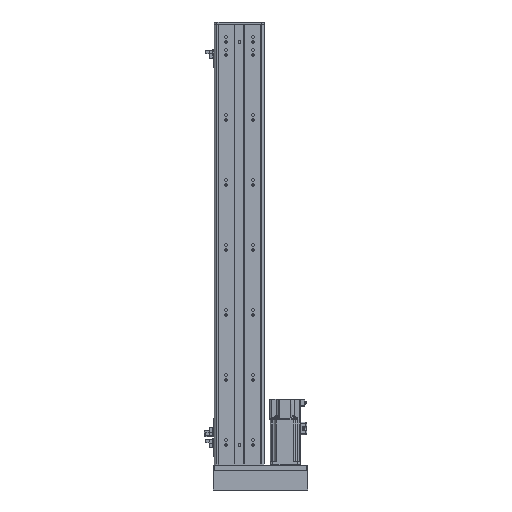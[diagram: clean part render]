
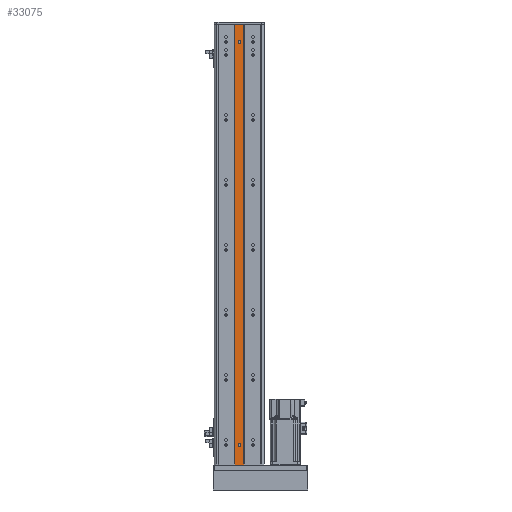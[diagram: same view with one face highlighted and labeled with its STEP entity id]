
A CAD part, front view. The second image highlights one B-rep face of the part: STEP entity #33075.
In plain terms, the highlighted planar face has unit normal (0, -1, 0).
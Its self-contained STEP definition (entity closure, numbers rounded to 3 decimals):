
#477 = CARTESIAN_POINT ( 'NONE',  ( 0., 1.309, 1011. ) ) ;
#3416 = VERTEX_POINT ( 'NONE', #34494 ) ;
#5298 = CARTESIAN_POINT ( 'NONE',  ( -2.5, 1.309, 975.5 ) ) ;
#5922 = FACE_BOUND ( 'NONE', #14756, .T. ) ;
#6361 = EDGE_CURVE ( 'NONE', #31376, #48317, #34912, .T. ) ;
#6563 = CARTESIAN_POINT ( 'NONE',  ( -2.5, 1.309, 1011. ) ) ;
#6850 = DIRECTION ( 'NONE',  ( 0., 0., 1. ) ) ;
#7253 = LINE ( 'NONE', #25293, #40298 ) ;
#8911 = DIRECTION ( 'NONE',  ( -1., 0., 0. ) ) ;
#9043 = ORIENTED_EDGE ( 'NONE', *, *, #45865, .T. ) ;
#9196 = CARTESIAN_POINT ( 'NONE',  ( -9., 1.309, 130. ) ) ;
#10165 = CARTESIAN_POINT ( 'NONE',  ( -9., 1.309, 1011. ) ) ;
#10350 = DIRECTION ( 'NONE',  ( 0., 0., 1. ) ) ;
#10606 = CARTESIAN_POINT ( 'NONE',  ( -2.5, 1.309, 976.5 ) ) ;
#10666 = CARTESIAN_POINT ( 'NONE',  ( 2.5, 1.309, 975.5 ) ) ;
#10788 = VECTOR ( 'NONE', #17176, 1000. ) ;
#10881 = EDGE_LOOP ( 'NONE', ( #13970, #57361, #19656, #17809 ) ) ;
#13904 = EDGE_CURVE ( 'NONE', #16786, #53937, #38965, .T. ) ;
#13970 = ORIENTED_EDGE ( 'NONE', *, *, #50607, .F. ) ;
#14611 = CARTESIAN_POINT ( 'NONE',  ( 2.5, 1.309, 170. ) ) ;
#14756 = EDGE_LOOP ( 'NONE', ( #40851, #70353, #9043, #25283 ) ) ;
#15312 = EDGE_CURVE ( 'NONE', #51633, #3416, #35436, .T. ) ;
#15930 = CARTESIAN_POINT ( 'NONE',  ( 0., 1.309, 170. ) ) ;
#16394 = EDGE_CURVE ( 'NONE', #53937, #16786, #49699, .T. ) ;
#16786 = VERTEX_POINT ( 'NONE', #14611 ) ;
#16978 = CARTESIAN_POINT ( 'NONE',  ( 2.5, 1.309, 1011. ) ) ;
#17176 = DIRECTION ( 'NONE',  ( 0., 0., -1. ) ) ;
#17418 = CARTESIAN_POINT ( 'NONE',  ( 9., 1.309, 1011. ) ) ;
#17809 = ORIENTED_EDGE ( 'NONE', *, *, #18707, .T. ) ;
#18707 = EDGE_CURVE ( 'NONE', #51633, #33378, #35688, .T. ) ;
#19656 = ORIENTED_EDGE ( 'NONE', *, *, #15312, .F. ) ;
#21255 = EDGE_CURVE ( 'NONE', #48317, #25497, #54265, .T. ) ;
#21572 = VECTOR ( 'NONE', #33341, 1000. ) ;
#23957 = VERTEX_POINT ( 'NONE', #33760 ) ;
#25283 = ORIENTED_EDGE ( 'NONE', *, *, #6361, .T. ) ;
#25293 = CARTESIAN_POINT ( 'NONE',  ( 0., 1.309, 130. ) ) ;
#25497 = VERTEX_POINT ( 'NONE', #10606 ) ;
#26942 = VECTOR ( 'NONE', #37616, 1000. ) ;
#27104 = DIRECTION ( 'NONE',  ( 0., 0., 1. ) ) ;
#28637 = LINE ( 'NONE', #17418, #10788 ) ;
#31376 = VERTEX_POINT ( 'NONE', #10666 ) ;
#32035 = EDGE_CURVE ( 'NONE', #3416, #43072, #28637, .T. ) ;
#33075 = ADVANCED_FACE ( 'NONE', ( #5922, #68675, #48325 ), #66163, .F. ) ;
#33341 = DIRECTION ( 'NONE',  ( 0., 0., -1. ) ) ;
#33378 = VERTEX_POINT ( 'NONE', #9196 ) ;
#33760 = CARTESIAN_POINT ( 'NONE',  ( 2.5, 1.309, 976.5 ) ) ;
#34068 = ORIENTED_EDGE ( 'NONE', *, *, #16394, .T. ) ;
#34081 = DIRECTION ( 'NONE',  ( 0., 0., 1. ) ) ;
#34494 = CARTESIAN_POINT ( 'NONE',  ( 9., 1.309, 1011. ) ) ;
#34912 = CIRCLE ( 'NONE', #59548, 2.5 ) ;
#35436 = LINE ( 'NONE', #10165, #26942 ) ;
#35480 = CIRCLE ( 'NONE', #49885, 2.5 ) ;
#35688 = LINE ( 'NONE', #68307, #61148 ) ;
#37616 = DIRECTION ( 'NONE',  ( 1., 0., 0. ) ) ;
#37667 = LINE ( 'NONE', #16978, #21572 ) ;
#38412 = DIRECTION ( 'NONE',  ( 0., 1., 0. ) ) ;
#38965 = CIRCLE ( 'NONE', #61120, 2.5 ) ;
#40217 = AXIS2_PLACEMENT_3D ( 'NONE', #477, #38412, #44573 ) ;
#40298 = VECTOR ( 'NONE', #8911, 1000. ) ;
#40819 = DIRECTION ( 'NONE',  ( 0., 0., 1. ) ) ;
#40851 = ORIENTED_EDGE ( 'NONE', *, *, #21255, .T. ) ;
#41226 = CARTESIAN_POINT ( 'NONE',  ( -9., 1.309, 1011. ) ) ;
#42827 = CARTESIAN_POINT ( 'NONE',  ( 0., 1.309, 976.5 ) ) ;
#43072 = VERTEX_POINT ( 'NONE', #62990 ) ;
#44573 = DIRECTION ( 'NONE',  ( 0., 0., 1. ) ) ;
#45187 = ORIENTED_EDGE ( 'NONE', *, *, #13904, .T. ) ;
#45865 = EDGE_CURVE ( 'NONE', #23957, #31376, #37667, .T. ) ;
#46246 = CARTESIAN_POINT ( 'NONE',  ( 0., 1.309, 170. ) ) ;
#48317 = VERTEX_POINT ( 'NONE', #5298 ) ;
#48325 = FACE_OUTER_BOUND ( 'NONE', #10881, .T. ) ;
#48611 = DIRECTION ( 'NONE',  ( 0., 1., 0. ) ) ;
#49699 = CIRCLE ( 'NONE', #62100, 2.5 ) ;
#49885 = AXIS2_PLACEMENT_3D ( 'NONE', #42827, #63933, #10350 ) ;
#50446 = DIRECTION ( 'NONE',  ( 0., 1., 0. ) ) ;
#50607 = EDGE_CURVE ( 'NONE', #43072, #33378, #7253, .T. ) ;
#51633 = VERTEX_POINT ( 'NONE', #41226 ) ;
#53937 = VERTEX_POINT ( 'NONE', #68833 ) ;
#54198 = VECTOR ( 'NONE', #34081, 1000. ) ;
#54265 = LINE ( 'NONE', #6563, #54198 ) ;
#55915 = CARTESIAN_POINT ( 'NONE',  ( 0., 1.309, 975.5 ) ) ;
#57361 = ORIENTED_EDGE ( 'NONE', *, *, #32035, .F. ) ;
#57403 = DIRECTION ( 'NONE',  ( 0., 1., 0. ) ) ;
#59548 = AXIS2_PLACEMENT_3D ( 'NONE', #55915, #50446, #6850 ) ;
#61120 = AXIS2_PLACEMENT_3D ( 'NONE', #15930, #48611, #27104 ) ;
#61148 = VECTOR ( 'NONE', #62639, 1000. ) ;
#62100 = AXIS2_PLACEMENT_3D ( 'NONE', #46246, #57403, #40819 ) ;
#62639 = DIRECTION ( 'NONE',  ( 0., 0., -1. ) ) ;
#62990 = CARTESIAN_POINT ( 'NONE',  ( 9., 1.309, 130. ) ) ;
#63933 = DIRECTION ( 'NONE',  ( 0., 1., 0. ) ) ;
#66163 = PLANE ( 'NONE',  #40217 ) ;
#67015 = EDGE_LOOP ( 'NONE', ( #45187, #34068 ) ) ;
#67714 = EDGE_CURVE ( 'NONE', #25497, #23957, #35480, .T. ) ;
#68307 = CARTESIAN_POINT ( 'NONE',  ( -9., 1.309, 1011. ) ) ;
#68675 = FACE_BOUND ( 'NONE', #67015, .T. ) ;
#68833 = CARTESIAN_POINT ( 'NONE',  ( -2.5, 1.309, 170. ) ) ;
#70353 = ORIENTED_EDGE ( 'NONE', *, *, #67714, .T. ) ;
